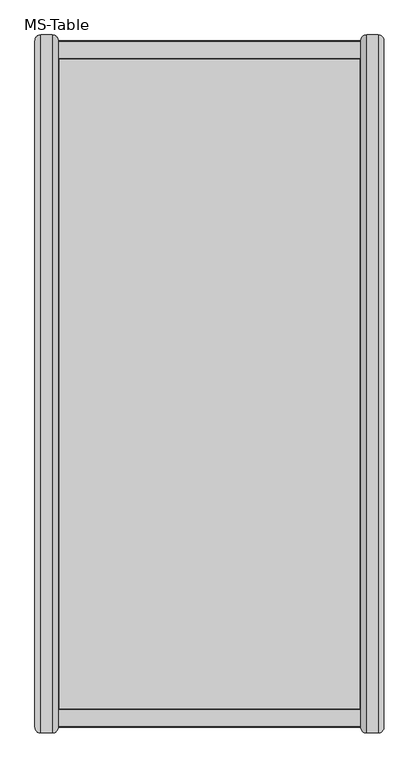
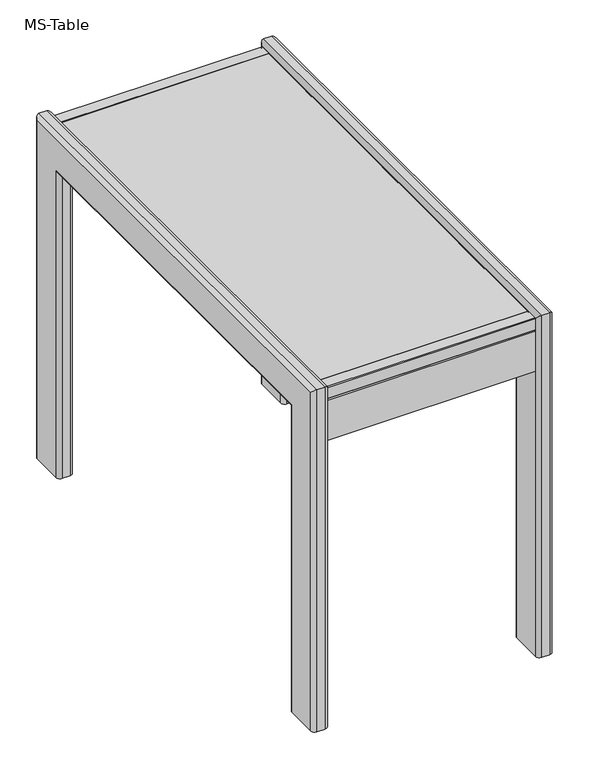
"""IFC4 building model written with IfcOpenShell, lengths in millimetres: furniture geometry, MS-Table : .Mesa controlador."""

from ifc_helpers import new_model, si_unit, frame, origin, place, context, project, spatial, polyline, circle_curve, ellipse_curve, outline, extrude, faceted_brep, source, transform, mapped, element, save
from ifc_brep_helpers import plane_surface, cylinder_surface, advanced_brep


def ms_table_1c190fa5(model_context):
    return source(origin(), model_context, "Body", "SolidModel", [
        extrude(outline(polyline([(-260.0, -423.8884232), (-270.0, -423.8884232), (-270.0, 676.1115768), (-260.0, 676.1115768), (-260.0, -423.8884232)])), frame((0.0, 0.0, 860.0), z_axis=(0.0, 0.0, 1.0), x_axis=(1.0, 0.0, 0.0)), (0.0, 0.0, 1.0), 20.0),
        extrude(outline(polyline([(250.0, 676.1115768), (250.0, -423.8884232), (240.0, -423.8884232), (240.0, 676.1115768), (250.0, 676.1115768)])), frame((0.0, 0.0, 860.0), z_axis=(0.0, 0.0, 1.0), x_axis=(1.0, 0.0, 0.0)), (0.0, 0.0, 1.0), 20.0),
        faceted_brep([(248.0, -431.8884232, 890.0), (248.0, 684.1115768, 890.0), (-268.0, 684.1115768, 890.0), (-268.0, -431.8884232, 890.0), (250.0, 686.1115768, 880.0), (250.0, -433.8884232, 880.0), (-270.0, -433.8884232, 880.0), (-270.0, 686.1115768, 880.0), (-270.0, 686.1115768, 888.0), (250.0, 686.1115768, 888.0), (-270.0, -433.8884232, 888.0), (250.0, -433.8884232, 888.0)], [[[0, 1, 2, 3]], [[4, 5, 6, 7]], [[4, 7, 8, 9]], [[7, 6, 10, 8]], [[6, 5, 11, 10]], [[5, 4, 9, 11]], [[9, 1, 0, 11]], [[1, 9, 8, 2]], [[2, 8, 10, 3]], [[11, 0, 3, 10]]]),
        faceted_brep([(250.0, -463.8884232, 860.0), (250.0, -458.8884232, 860.0), (250.0, -458.8884232, 855.0), (250.0, -463.8884232, 855.0), (250.0, -463.8884232, 750.0), (250.0, -423.8884232, 750.0), (250.0, -423.8884232, 880.0), (250.0, -433.8884232, 880.0), (250.0, -433.8884232, 888.0), (250.0, -433.8884232, 890.0), (250.0, -461.8884232, 890.0), (250.0, -463.8884232, 888.0), (-270.0, -433.8884232, 880.0), (-270.0, -423.8884232, 880.0), (-270.0, -423.8884232, 750.0), (-270.0, -463.8884232, 750.0), (-270.0, -463.8884232, 855.0), (-270.0, -458.8884232, 855.0), (-270.0, -458.8884232, 860.0), (-270.0, -463.8884232, 860.0), (-270.0, -463.8884232, 888.0), (-270.0, -461.8884232, 890.0), (-270.0, -433.8884232, 890.0), (-270.0, -433.8884232, 888.0)], [[[0, 1, 2, 3, 4, 5, 6, 7, 8, 9, 10, 11]], [[12, 13, 14, 15, 16, 17, 18, 19, 20, 21, 22, 23]], [[19, 0, 11, 20]], [[1, 0, 19, 18]], [[2, 1, 18, 17]], [[3, 2, 17, 16]], [[4, 3, 16, 15]], [[5, 4, 15, 14]], [[6, 5, 14, 13]], [[7, 6, 13, 12]], [[7, 12, 23, 22, 9, 8]], [[9, 22, 21, 10]], [[11, 10, 21, 20]]]),
        faceted_brep([(250.0, 686.1115768, 880.0), (250.0, 676.1115768, 880.0), (250.0, 676.1115768, 750.0), (250.0, 716.1115768, 750.0), (250.0, 716.1115768, 855.0), (250.0, 711.1115768, 855.0), (250.0, 711.1115768, 860.0), (250.0, 716.1115768, 860.0), (250.0, 716.1115768, 888.0), (250.0, 714.1115768, 890.0), (250.0, 686.1115768, 890.0), (250.0, 686.1115768, 888.0), (-270.0, 716.1115768, 860.0), (-270.0, 711.1115768, 860.0), (-270.0, 711.1115768, 855.0), (-270.0, 716.1115768, 855.0), (-270.0, 716.1115768, 750.0), (-270.0, 676.1115768, 750.0), (-270.0, 676.1115768, 880.0), (-270.0, 686.1115768, 880.0), (-270.0, 686.1115768, 888.0), (-270.0, 686.1115768, 890.0), (-270.0, 714.1115768, 890.0), (-270.0, 716.1115768, 888.0)], [[[0, 1, 2, 3, 4, 5, 6, 7, 8, 9, 10, 11]], [[12, 13, 14, 15, 16, 17, 18, 19, 20, 21, 22, 23]], [[21, 10, 9, 22]], [[10, 21, 20, 19, 0, 11]], [[1, 0, 19, 18]], [[2, 1, 18, 17]], [[3, 2, 17, 16]], [[4, 3, 16, 15]], [[5, 4, 15, 14]], [[6, 5, 14, 13]], [[7, 6, 13, 12]], [[7, 12, 23, 8]], [[9, 8, 23, 22]]]),
        advanced_brep(
        [(260.0, 726.1115768, 0.0), (280.0, 726.1115768, 0.0), (290.0, 716.1115768, 0.0), (290.0, 636.1115768, 0.0), (280.0, 626.1115768, 0.0), (260.0, 626.1115768, 0.0), (250.0, 636.1115768, 0.0), (250.0, 716.1115768, 0.0), (260.0, 726.1115768, 900.0), (280.0, 726.1115768, 900.0), (290.0, 716.1115768, 890.0), (290.0, -463.8884232, 890.0), (290.0, -463.8884232, 0.0), (290.0, -383.8884232, 0.0), (290.0, -383.8884232, 810.0), (290.0, 636.1115768, 810.0), (280.0, 626.1115768, 800.0), (260.0, 626.1115768, 800.0), (250.0, 636.1115768, 810.0), (250.0, -383.8884232, 810.0), (250.0, -383.8884232, 0.0), (250.0, -463.8884232, 0.0), (250.0, -463.8884232, 888.0), (250.0, -463.8884232, 890.0), (250.0, -461.8884232, 890.0), (250.0, -433.8884232, 890.0), (250.0, 686.1115768, 890.0), (250.0, 714.1115768, 890.0), (250.0, 716.1115768, 890.0), (250.0, 716.1115768, 888.0), (260.0, -473.8884232, 900.0), (280.0, -473.8884232, 900.0), (280.0, -373.8884232, 800.0), (260.0, -373.8884232, 800.0), (280.0, -473.8884232, 0.0), (260.0, -473.8884232, 0.0), (260.0, -373.8884232, 0.0), (280.0, -373.8884232, 0.0)],
        [
            (0, 1),
            (1, 2, circle_curve(frame((280.0, 716.1115768, 0.0), z_axis=(0.0, 0.0, -1.0), x_axis=(0.0, 1.0, 0.0)), 10.0)),
            (2, 3),
            (3, 4, circle_curve(frame((280.0, 636.1115768, 0.0), z_axis=(0.0, 0.0, -1.0), x_axis=(0.0, 1.0, 0.0)), 10.0)),
            (4, 5),
            (5, 6, circle_curve(frame((260.0, 636.1115768, 0.0), z_axis=(0.0, 0.0, -1.0), x_axis=(0.0, 1.0, 0.0)), 10.0)),
            (6, 7),
            (7, 0, circle_curve(frame((260.0, 716.1115768, 0.0), z_axis=(0.0, 0.0, -1.0), x_axis=(0.0, 1.0, 0.0)), 10.0)),
            (0, 8),
            (8, 9),
            (9, 1),
            (9, 10, ellipse_curve(frame((280.0, 716.1115768, 890.0), z_axis=(0.0, 0.7071067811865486, -0.7071067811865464), x_axis=(0.0, -0.7071067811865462, -0.7071067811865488)), 14.1421356, 10.0)),
            (10, 2),
            (10, 11),
            (11, 12),
            (12, 13),
            (13, 14),
            (14, 15),
            (15, 3),
            (15, 16, ellipse_curve(frame((280.0, 636.1115768, 810.0), z_axis=(0.0, 0.7071067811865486, -0.7071067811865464), x_axis=(0.0, -0.7071067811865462, -0.7071067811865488)), 14.1421356, 10.0)),
            (16, 4),
            (16, 17),
            (17, 5),
            (17, 18, ellipse_curve(frame((260.0, 636.1115768, 810.0), z_axis=(0.0, 0.7071067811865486, -0.7071067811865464), x_axis=(0.0, -0.7071067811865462, -0.7071067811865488)), 14.1421356, 10.0)),
            (18, 6),
            (18, 19),
            (19, 20),
            (20, 21),
            (21, 22),
            (22, 23),
            (23, 24),
            (24, 25),
            (25, 26),
            (26, 27),
            (27, 28),
            (28, 29),
            (29, 7),
            (28, 8, ellipse_curve(frame((260.0, 716.1115768, 890.0), z_axis=(0.0, 0.7071067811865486, -0.7071067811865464), x_axis=(0.0, -0.7071067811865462, -0.7071067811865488)), 14.1421356, 10.0)),
            (8, 30),
            (30, 31),
            (31, 9),
            (31, 11, ellipse_curve(frame((280.0, -463.8884232, 890.0), z_axis=(0.0, 0.7071067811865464, 0.7071067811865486), x_axis=(0.0, 0.7071067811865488, -0.7071067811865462)), 14.1421356, 10.0)),
            (14, 32, ellipse_curve(frame((280.0, -383.8884232, 810.0), z_axis=(0.0, 0.7071067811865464, 0.7071067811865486), x_axis=(0.0, 0.7071067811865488, -0.7071067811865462)), 14.1421356, 10.0)),
            (32, 16),
            (32, 33),
            (33, 17),
            (33, 19, ellipse_curve(frame((260.0, -383.8884232, 810.0), z_axis=(0.0, 0.7071067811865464, 0.7071067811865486), x_axis=(0.0, 0.7071067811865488, -0.7071067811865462)), 14.1421356, 10.0)),
            (23, 30, ellipse_curve(frame((260.0, -463.8884232, 890.0), z_axis=(0.0, 0.7071067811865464, 0.7071067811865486), x_axis=(0.0, 0.7071067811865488, -0.7071067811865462)), 14.1421356, 10.0)),
            (12, 34, circle_curve(frame((280.0, -463.8884232, 0.0), z_axis=(0.0, 0.0, -1.0), x_axis=(0.0, -1.0, 0.0)), 10.0)),
            (34, 35),
            (35, 21, circle_curve(frame((260.0, -463.8884232, 0.0), z_axis=(0.0, 0.0, -1.0), x_axis=(0.0, -1.0, 0.0)), 10.0)),
            (20, 36, circle_curve(frame((260.0, -383.8884232, 0.0), z_axis=(0.0, 0.0, -1.0), x_axis=(0.0, -1.0, 0.0)), 10.0)),
            (36, 37),
            (37, 13, circle_curve(frame((280.0, -383.8884232, 0.0), z_axis=(0.0, 0.0, -1.0), x_axis=(0.0, -1.0, 0.0)), 10.0)),
            (30, 35),
            (34, 31),
            (37, 32),
            (36, 33),
        ],
        [
            plane_surface(frame((290.0, 726.1115768, 0.0), z_axis=(0.0, 0.0, -1.0), x_axis=(1.0, 0.0, 0.0))),
            plane_surface(frame((260.0, 726.1115768, 0.0), z_axis=(0.0, 1.0, 0.0), x_axis=(0.0, 0.0, 1.0))),
            cylinder_surface(frame((280.0, 716.1115768, 0.0), z_axis=(0.0, 0.0, -1.0), x_axis=(0.0, 1.0, 0.0)), 10.0),
            plane_surface(frame((290.0, 716.1115768, 0.0), z_axis=(1.0, 0.0, 0.0), x_axis=(0.0, 0.0, 1.0))),
            cylinder_surface(frame((280.0, 636.1115768, 0.0), z_axis=(0.0, 0.0, -1.0), x_axis=(0.0, 1.0, 0.0)), 10.0),
            plane_surface(frame((280.0, 626.1115768, 0.0), z_axis=(0.0, -1.0, 0.0), x_axis=(0.0, 0.0, 1.0))),
            cylinder_surface(frame((260.0, 636.1115768, 0.0), z_axis=(0.0, 0.0, -1.0), x_axis=(0.0, 1.0, 0.0)), 10.0),
            plane_surface(frame((250.0, 636.1115768, 0.0), z_axis=(-1.0, 0.0, 0.0), x_axis=(0.0, 0.0, 1.0))),
            cylinder_surface(frame((260.0, 716.1115768, 0.0), z_axis=(0.0, 0.0, -1.0), x_axis=(0.0, 1.0, 0.0)), 10.0),
            plane_surface(frame((260.0, 726.1115768, 900.0), z_axis=(0.0, 0.0, 1.0), x_axis=(0.0, -1.0, 0.0))),
            cylinder_surface(frame((280.0, 726.1115768, 890.0), z_axis=(0.0, 1.0, 0.0), x_axis=(0.0, 0.0, 1.0)), 10.0),
            cylinder_surface(frame((280.0, 726.1115768, 810.0), z_axis=(0.0, 1.0, 0.0), x_axis=(0.0, 0.0, 1.0)), 10.0),
            plane_surface(frame((280.0, 626.1115768, 800.0), z_axis=(0.0, 0.0, -1.0), x_axis=(0.0, -1.0, 0.0))),
            cylinder_surface(frame((260.0, 726.1115768, 810.0), z_axis=(0.0, 1.0, 0.0), x_axis=(0.0, 0.0, 1.0)), 10.0),
            cylinder_surface(frame((260.0, 726.1115768, 890.0), z_axis=(0.0, 1.0, 0.0), x_axis=(0.0, 0.0, 1.0)), 10.0),
            plane_surface(frame((290.0, -473.8884232, 0.0), z_axis=(0.0, 0.0, -1.0), x_axis=(1.0, 0.0, 0.0))),
            plane_surface(frame((260.0, -473.8884232, 900.0), z_axis=(0.0, -1.0, 0.0), x_axis=(0.0, 0.0, -1.0))),
            cylinder_surface(frame((280.0, -463.8884232, 900.0), z_axis=(0.0, 0.0, 1.0), x_axis=(0.0, -1.0, 0.0)), 10.0),
            cylinder_surface(frame((280.0, -383.8884232, 900.0), z_axis=(0.0, 0.0, 1.0), x_axis=(0.0, -1.0, 0.0)), 10.0),
            plane_surface(frame((280.0, -373.8884232, 800.0), z_axis=(0.0, 1.0, 0.0), x_axis=(0.0, 0.0, -1.0))),
            cylinder_surface(frame((260.0, -383.8884232, 900.0), z_axis=(0.0, 0.0, 1.0), x_axis=(0.0, -1.0, 0.0)), 10.0),
            cylinder_surface(frame((260.0, -463.8884232, 900.0), z_axis=(0.0, 0.0, 1.0), x_axis=(0.0, -1.0, 0.0)), 10.0),
        ],
        [
            (0, [[1, 2, 3, 4, 5, 6, 7, 8]]),
            (1, [[-1, 9, 10, 11]]),
            (2, [[-2, -11, 12, 13]]),
            (3, [[-3, -13, 14, 15, 16, 17, 18, 19]]),
            (4, [[-4, -19, 20, 21]]),
            (5, [[-5, -21, 22, 23]]),
            (6, [[-6, -23, 24, 25]]),
            (7, [[-7, -25, 26, 27, 28, 29, 30, 31, 32, 33, 34, 35, 36, 37]]),
            (8, [[-8, -37, -36, 38, -9]]),
            (9, [[-10, 39, 40, 41]]),
            (10, [[-12, -41, 42, -14]]),
            (11, [[-18, 43, 44, -20]]),
            (12, [[-22, -44, 45, 46]]),
            (13, [[-24, -46, 47, -26]]),
            (14, [[-38, -35, -34, -33, -32, -31, 48, -39]]),
            (15, [[-16, 49, 50, 51, -28, 52, 53, 54]]),
            (16, [[-40, 55, -50, 56]]),
            (17, [[-15, -42, -56, -49]]),
            (18, [[-17, -54, 57, -43]]),
            (19, [[-45, -57, -53, 58]]),
            (20, [[-27, -47, -58, -52]]),
            (21, [[-48, -30, -29, -51, -55]]),
        ],
    ),
        advanced_brep(
        [(-280.0, -473.8884232, 0.0), (-300.0, -473.8884232, 0.0), (-310.0, -463.8884232, 0.0), (-310.0, -383.8884232, 0.0), (-300.0, -373.8884232, 0.0), (-280.0, -373.8884232, 0.0), (-270.0, -383.8884232, 0.0), (-270.0, -463.8884232, 0.0), (-280.0, -473.8884232, 900.0), (-300.0, -473.8884232, 900.0), (-310.0, -463.8884232, 890.0), (-310.0, 716.1115768, 890.0), (-310.0, 716.1115768, 0.0), (-310.0, 636.1115768, 0.0), (-310.0, 636.1115768, 810.0), (-310.0, -383.8884232, 810.0), (-300.0, -373.8884232, 800.0), (-280.0, -373.8884232, 800.0), (-270.0, -383.8884232, 810.0), (-270.0, 636.1115768, 810.0), (-270.0, 636.1115768, 0.0), (-270.0, 716.1115768, 0.0), (-270.0, 716.1115768, 888.0), (-270.0, 716.1115768, 890.0), (-270.0, 714.1115768, 890.0), (-270.0, 686.1115768, 890.0), (-270.0, -433.8884232, 890.0), (-270.0, -461.8884232, 890.0), (-270.0, -463.8884232, 890.0), (-270.0, -463.8884232, 888.0), (-280.0, 726.1115768, 900.0), (-300.0, 726.1115768, 900.0), (-300.0, 626.1115768, 800.0), (-280.0, 626.1115768, 800.0), (-300.0, 726.1115768, 0.0), (-280.0, 726.1115768, 0.0), (-280.0, 626.1115768, 0.0), (-300.0, 626.1115768, 0.0)],
        [
            (0, 1),
            (1, 2, circle_curve(frame((-300.0, -463.8884232, 0.0), z_axis=(0.0, 0.0, -1.0), x_axis=(0.0, -1.0, 0.0)), 10.0)),
            (2, 3),
            (3, 4, circle_curve(frame((-300.0, -383.8884232, 0.0), z_axis=(0.0, 0.0, -1.0), x_axis=(0.0, -1.0, 0.0)), 10.0)),
            (4, 5),
            (5, 6, circle_curve(frame((-280.0, -383.8884232, 0.0), z_axis=(0.0, 0.0, -1.0), x_axis=(0.0, -1.0, 0.0)), 10.0)),
            (6, 7),
            (7, 0, circle_curve(frame((-280.0, -463.8884232, 0.0), z_axis=(0.0, 0.0, -1.0), x_axis=(0.0, -1.0, 0.0)), 10.0)),
            (0, 8),
            (8, 9),
            (9, 1),
            (9, 10, ellipse_curve(frame((-300.0, -463.8884232, 890.0), z_axis=(0.0, -0.7071067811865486, -0.7071067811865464), x_axis=(0.0, 0.7071067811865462, -0.7071067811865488)), 14.1421356, 10.0)),
            (10, 2),
            (10, 11),
            (11, 12),
            (12, 13),
            (13, 14),
            (14, 15),
            (15, 3),
            (15, 16, ellipse_curve(frame((-300.0, -383.8884232, 810.0), z_axis=(0.0, -0.7071067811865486, -0.7071067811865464), x_axis=(0.0, 0.7071067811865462, -0.7071067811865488)), 14.1421356, 10.0)),
            (16, 4),
            (16, 17),
            (17, 5),
            (17, 18, ellipse_curve(frame((-280.0, -383.8884232, 810.0), z_axis=(0.0, -0.7071067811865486, -0.7071067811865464), x_axis=(0.0, 0.7071067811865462, -0.7071067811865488)), 14.1421356, 10.0)),
            (18, 6),
            (18, 19),
            (19, 20),
            (20, 21),
            (21, 22),
            (22, 23),
            (23, 24),
            (24, 25),
            (25, 26),
            (26, 27),
            (27, 28),
            (28, 29),
            (29, 7),
            (28, 8, ellipse_curve(frame((-280.0, -463.8884232, 890.0), z_axis=(0.0, -0.7071067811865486, -0.7071067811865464), x_axis=(0.0, 0.7071067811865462, -0.7071067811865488)), 14.1421356, 10.0)),
            (8, 30),
            (30, 31),
            (31, 9),
            (31, 11, ellipse_curve(frame((-300.0, 716.1115768, 890.0), z_axis=(0.0, -0.7071067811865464, 0.7071067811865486), x_axis=(0.0, -0.7071067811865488, -0.7071067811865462)), 14.1421356, 10.0)),
            (14, 32, ellipse_curve(frame((-300.0, 636.1115768, 810.0), z_axis=(0.0, -0.7071067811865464, 0.7071067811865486), x_axis=(0.0, -0.7071067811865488, -0.7071067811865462)), 14.1421356, 10.0)),
            (32, 16),
            (32, 33),
            (33, 17),
            (33, 19, ellipse_curve(frame((-280.0, 636.1115768, 810.0), z_axis=(0.0, -0.7071067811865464, 0.7071067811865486), x_axis=(0.0, -0.7071067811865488, -0.7071067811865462)), 14.1421356, 10.0)),
            (23, 30, ellipse_curve(frame((-280.0, 716.1115768, 890.0), z_axis=(0.0, -0.7071067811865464, 0.7071067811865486), x_axis=(0.0, -0.7071067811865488, -0.7071067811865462)), 14.1421356, 10.0)),
            (12, 34, circle_curve(frame((-300.0, 716.1115768, 0.0), z_axis=(0.0, 0.0, -1.0), x_axis=(0.0, 1.0, 0.0)), 10.0)),
            (34, 35),
            (35, 21, circle_curve(frame((-280.0, 716.1115768, 0.0), z_axis=(0.0, 0.0, -1.0), x_axis=(0.0, 1.0, 0.0)), 10.0)),
            (20, 36, circle_curve(frame((-280.0, 636.1115768, 0.0), z_axis=(0.0, 0.0, -1.0), x_axis=(0.0, 1.0, 0.0)), 10.0)),
            (36, 37),
            (37, 13, circle_curve(frame((-300.0, 636.1115768, 0.0), z_axis=(0.0, 0.0, -1.0), x_axis=(0.0, 1.0, 0.0)), 10.0)),
            (30, 35),
            (34, 31),
            (37, 32),
            (36, 33),
        ],
        [
            plane_surface(frame((-310.0, -473.8884232, 0.0), z_axis=(0.0, 0.0, -1.0), x_axis=(1.0, 0.0, 0.0))),
            plane_surface(frame((-280.0, -473.8884232, 0.0), z_axis=(0.0, -1.0, 0.0), x_axis=(0.0, 0.0, 1.0))),
            cylinder_surface(frame((-300.0, -463.8884232, 0.0), z_axis=(0.0, 0.0, -1.0), x_axis=(0.0, -1.0, 0.0)), 10.0),
            plane_surface(frame((-310.0, -463.8884232, 0.0), z_axis=(-1.0, 0.0, 0.0), x_axis=(0.0, 0.0, 1.0))),
            cylinder_surface(frame((-300.0, -383.8884232, 0.0), z_axis=(0.0, 0.0, -1.0), x_axis=(0.0, -1.0, 0.0)), 10.0),
            plane_surface(frame((-300.0, -373.8884232, 0.0), z_axis=(0.0, 1.0, 0.0), x_axis=(0.0, 0.0, 1.0))),
            cylinder_surface(frame((-280.0, -383.8884232, 0.0), z_axis=(0.0, 0.0, -1.0), x_axis=(0.0, -1.0, 0.0)), 10.0),
            plane_surface(frame((-270.0, -383.8884232, 0.0), z_axis=(1.0, 0.0, 0.0), x_axis=(0.0, 0.0, 1.0))),
            cylinder_surface(frame((-280.0, -463.8884232, 0.0), z_axis=(0.0, 0.0, -1.0), x_axis=(0.0, -1.0, 0.0)), 10.0),
            plane_surface(frame((-280.0, -473.8884232, 900.0), z_axis=(0.0, 0.0, 1.0), x_axis=(0.0, 1.0, 0.0))),
            cylinder_surface(frame((-300.0, -473.8884232, 890.0), z_axis=(0.0, -1.0, 0.0), x_axis=(0.0, 0.0, 1.0)), 10.0),
            cylinder_surface(frame((-300.0, -473.8884232, 810.0), z_axis=(0.0, -1.0, 0.0), x_axis=(0.0, 0.0, 1.0)), 10.0),
            plane_surface(frame((-300.0, -373.8884232, 800.0), z_axis=(0.0, 0.0, -1.0), x_axis=(0.0, 1.0, 0.0))),
            cylinder_surface(frame((-280.0, -473.8884232, 810.0), z_axis=(0.0, -1.0, 0.0), x_axis=(0.0, 0.0, 1.0)), 10.0),
            cylinder_surface(frame((-280.0, -473.8884232, 890.0), z_axis=(0.0, -1.0, 0.0), x_axis=(0.0, 0.0, 1.0)), 10.0),
            plane_surface(frame((-310.0, 726.1115768, 0.0), z_axis=(0.0, 0.0, -1.0), x_axis=(1.0, 0.0, 0.0))),
            plane_surface(frame((-280.0, 726.1115768, 900.0), z_axis=(0.0, 1.0, 0.0), x_axis=(0.0, 0.0, -1.0))),
            cylinder_surface(frame((-300.0, 716.1115768, 900.0), z_axis=(0.0, 0.0, 1.0), x_axis=(0.0, 1.0, 0.0)), 10.0),
            cylinder_surface(frame((-300.0, 636.1115768, 900.0), z_axis=(0.0, 0.0, 1.0), x_axis=(0.0, 1.0, 0.0)), 10.0),
            plane_surface(frame((-300.0, 626.1115768, 800.0), z_axis=(0.0, -1.0, 0.0), x_axis=(0.0, 0.0, -1.0))),
            cylinder_surface(frame((-280.0, 636.1115768, 900.0), z_axis=(0.0, 0.0, 1.0), x_axis=(0.0, 1.0, 0.0)), 10.0),
            cylinder_surface(frame((-280.0, 716.1115768, 900.0), z_axis=(0.0, 0.0, 1.0), x_axis=(0.0, 1.0, 0.0)), 10.0),
        ],
        [
            (0, [[1, 2, 3, 4, 5, 6, 7, 8]]),
            (1, [[-1, 9, 10, 11]]),
            (2, [[-2, -11, 12, 13]]),
            (3, [[-3, -13, 14, 15, 16, 17, 18, 19]]),
            (4, [[-4, -19, 20, 21]]),
            (5, [[-5, -21, 22, 23]]),
            (6, [[-6, -23, 24, 25]]),
            (7, [[-7, -25, 26, 27, 28, 29, 30, 31, 32, 33, 34, 35, 36, 37]]),
            (8, [[-8, -37, -36, 38, -9]]),
            (9, [[-10, 39, 40, 41]]),
            (10, [[-12, -41, 42, -14]]),
            (11, [[-18, 43, 44, -20]]),
            (12, [[-22, -44, 45, 46]]),
            (13, [[-24, -46, 47, -26]]),
            (14, [[-38, -35, -34, -33, -32, -31, 48, -39]]),
            (15, [[-16, 49, 50, 51, -28, 52, 53, 54]]),
            (16, [[-40, 55, -50, 56]]),
            (17, [[-15, -42, -56, -49]]),
            (18, [[-17, -54, 57, -43]]),
            (19, [[-45, -57, -53, 58]]),
            (20, [[-27, -47, -58, -52]]),
            (21, [[-48, -30, -29, -51, -55]]),
        ],
    ),
    ])


if __name__ == "__main__":
    model = new_model("IFC4")
    model_context = context("Model", 3, world=origin())
    ifc_project = project(units=[si_unit("LENGTHUNIT", "METRE", prefix="MILLI")], contexts=[model_context])
    site = spatial("IfcSite", under=ifc_project)
    building = spatial("IfcBuilding", under=site)
    placement = place(None, origin())
    ms_table_shape = ms_table_1c190fa5(model_context)
    element("IfcFurniture", 1, ObjectType="MS-Table : .Mesa controlador", at=placement, inside=building, context=model_context, shape_type="MappedRepresentation", body=[
        mapped(ms_table_shape, transform((0.0, 0.0, 0.0), x_axis=(1.0, 0.0, 0.0), y_axis=(0.0, 1.0, 0.0), z_axis=(0.0, 0.0, 1.0))),
    ])
    save(model, "model.ifc")
